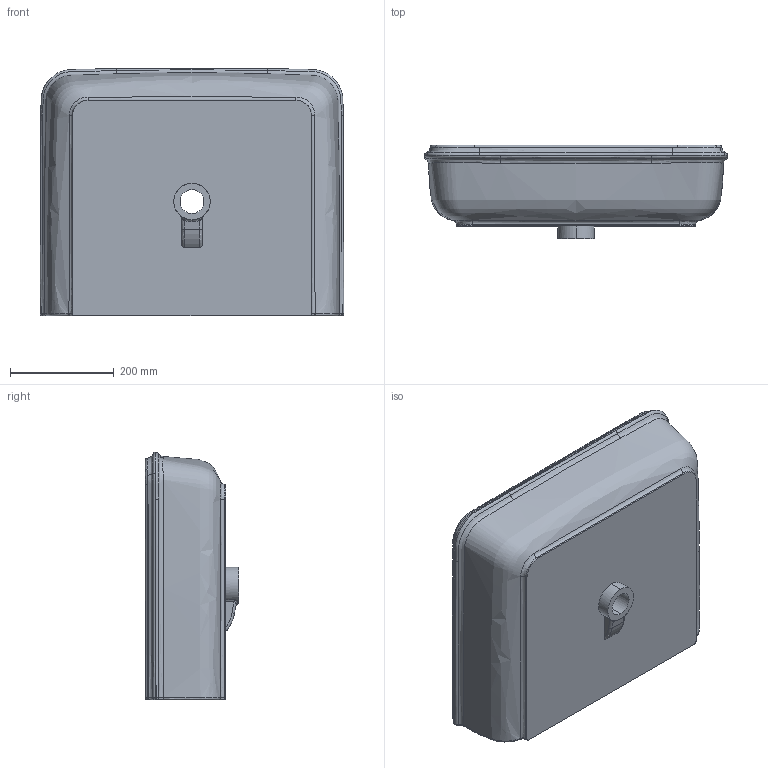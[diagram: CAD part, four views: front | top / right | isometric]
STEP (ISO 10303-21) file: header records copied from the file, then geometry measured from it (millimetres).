
FILE_DESCRIPTION (( 'STEP AP203' ), '1' );
FILE_NAME ('CHLP05646T0M.STEP', '2019-01-21T10:21:51', ( '' ), ( '' ), 'SwSTEP 2.0', 'SolidWorks 2019', '' );
FILE_SCHEMA (( 'CONFIG_CONTROL_DESIGN' ));
Length unit declared in the file: millimetre
Products named in the file (1): CHLP05646T0M
Bounding box: 583.99 x 180 x 476.88 mm (x, y, z)
Volume: 25440062.3 mm3; surface area: 922244.4 mm2
Topology: 1 solids, 1 shells, 108 faces, 276 edges, 171 vertices
Faces by surface type: bspline 71, cylinder 18, plane 11, torus 6, cone 2
Entity records: 14965 total; most frequent: CARTESIAN_POINT 12780, ORIENTED_EDGE 550, DIRECTION 294, EDGE_CURVE 275, VERTEX_POINT 171, B_SPLINE_CURVE_WITH_KNOTS 141, AXIS2_PLACEMENT_3D 128, EDGE_LOOP 112
